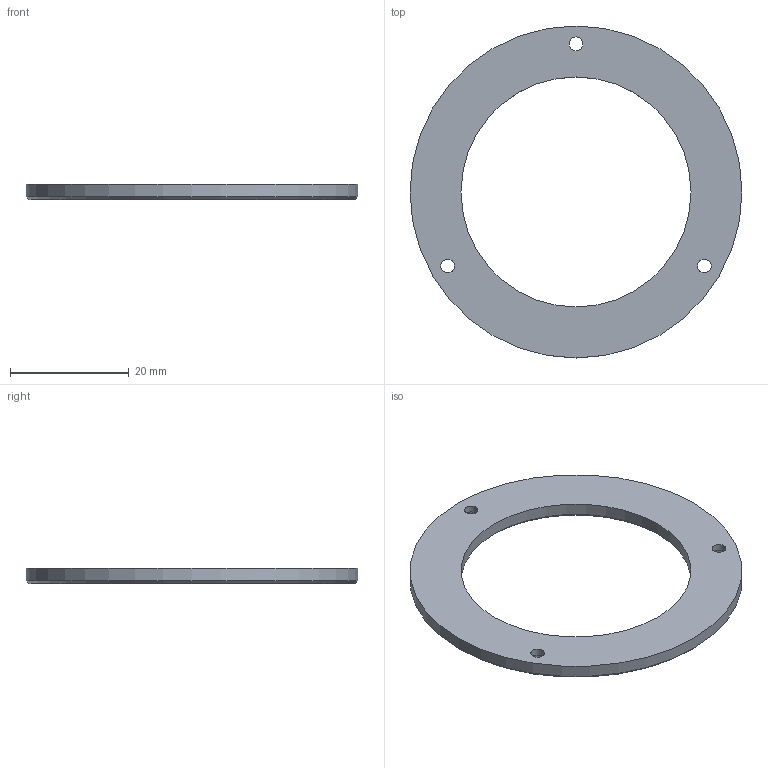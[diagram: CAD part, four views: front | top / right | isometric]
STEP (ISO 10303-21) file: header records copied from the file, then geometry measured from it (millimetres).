
FILE_DESCRIPTION(('Open CASCADE Model'),'2;1');
FILE_NAME('Open CASCADE Shape Model','2026-11-04T16:01:59',('Author'),( 'Open CASCADE'),'Open CASCADE STEP processor 7.9','Open CASCADE 7.9' ,'Unknown');
FILE_SCHEMA(('AUTOMOTIVE_DESIGN { 1 0 10303 214 1 1 1 1 }'));
Length unit declared in the file: millimetre
Products named in the file (1): Open CASCADE STEP translator 7.9 2
Bounding box: 56 x 56 x 2.6 mm (x, y, z)
Volume: 3213.6 mm3; surface area: 3307.5 mm2
Topology: 1 solids, 1 shells, 15 faces, 28 edges, 18 vertices
Faces by surface type: cylinder 8, plane 5, cone 2
Full cylindrical faces by diameter (mm): 2.3 x3, 4.4 x3, 38.8 x1, 56 x1
Entity records: 792 total; most frequent: CARTESIAN_POINT 154, DIRECTION 128, ORIENTED_EDGE 56, PCURVE 56, DEFINITIONAL_REPRESENTATION 56, LINE 50, VECTOR 50, AXIS2_PLACEMENT_3D 34
